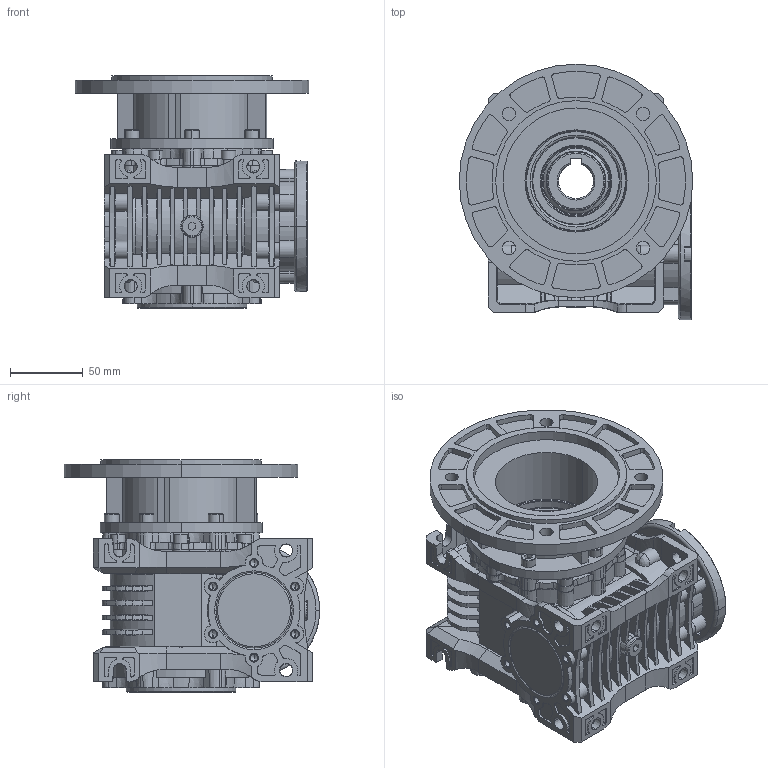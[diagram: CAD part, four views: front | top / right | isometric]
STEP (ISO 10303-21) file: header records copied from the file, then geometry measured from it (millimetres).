
FILE_DESCRIPTION (( 'STEP AP203' ), '1' );
FILE_NAME ('MR-50_90-11-K160_2-3D.STEP', '2024-02-08T10:56:50', ( '' ), ( '' ), 'SwSTEP 2.0', 'SolidWorks 2022', '' );
FILE_SCHEMA (( 'CONFIG_CONTROL_DESIGN' ));
Products named in the file (1): MR-50_90-11-K160_2-3D
Bounding box: 160 x 175 x 159 mm (x, y, z)
Volume: 1379476.7 mm3; surface area: 279802.1 mm2
Topology: 1 solids, 52 shells, 3064 faces, 8043 edges, 5091 vertices
Faces by surface type: plane 1151, cone 949, cylinder 703, torus 164, bspline 97
Entity records: 112966 total; most frequent: CARTESIAN_POINT 38130, DIRECTION 15890, ORIENTED_EDGE 15842, EDGE_CURVE 7921, AXIS2_PLACEMENT_3D 6057, VERTEX_POINT 5091, LINE 3776, VECTOR 3776
